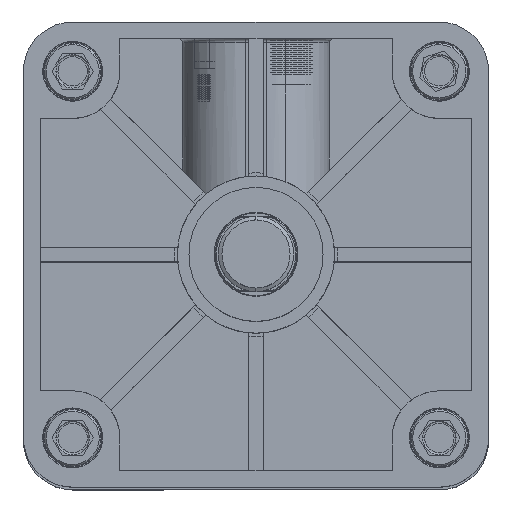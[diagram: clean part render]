
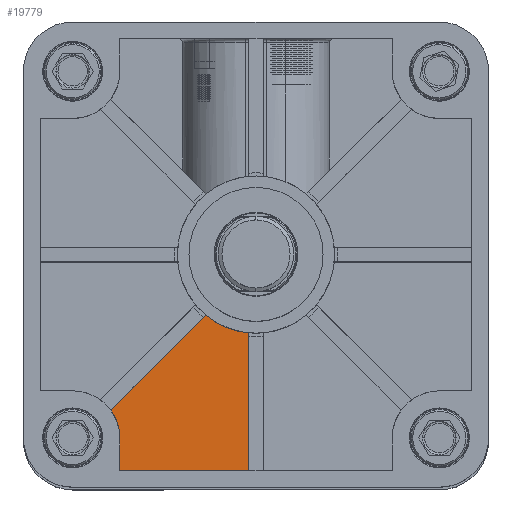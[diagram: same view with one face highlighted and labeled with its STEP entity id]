
A CAD part, top view. The second image highlights one B-rep face of the part: STEP entity #19779.
In plain terms, the highlighted planar face has unit normal (0, 0, 1).
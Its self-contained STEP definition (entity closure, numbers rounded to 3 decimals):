
#3582 = EDGE_CURVE ( 'NONE', #3583, #3593, #11427, .T. ) ;
#3583 = VERTEX_POINT ( 'NONE', #11419 ) ;
#3593 = VERTEX_POINT ( 'NONE', #11475 ) ;
#4174 = ORIENTED_EDGE ( 'NONE', *, *, #4191, .T. ) ;
#4191 = EDGE_CURVE ( 'NONE', #19761, #19819, #12583, .T. ) ;
#11419 = CARTESIAN_POINT ( 'NONE',  ( -3.5, -37.336, 12.5 ) ) ;
#11421 = DIRECTION ( 'NONE',  ( 1., 0., 0. ) ) ;
#11423 = DIRECTION ( 'NONE',  ( 0., 0., -1. ) ) ;
#11424 = CARTESIAN_POINT ( 'NONE',  ( 0., 0., 12.5 ) ) ;
#11426 = AXIS2_PLACEMENT_3D ( 'NONE', #11424, #11423, #11421 ) ;
#11427 = CIRCLE ( 'NONE', #11426, 37.5 ) ;
#11475 = CARTESIAN_POINT ( 'NONE',  ( -23.926, -28.876, 12.5 ) ) ;
#12580 = DIRECTION ( 'NONE',  ( 1., 0., 0. ) ) ;
#12581 = VECTOR ( 'NONE', #12580, 1000. ) ;
#12582 = CARTESIAN_POINT ( 'NONE',  ( -65., -103., 12.5 ) ) ;
#12583 = LINE ( 'NONE', #12582, #12581 ) ;
#19745 = EDGE_LOOP ( 'NONE', ( #4174, #19822, #19830, #19840, #19814, #19824 ) ) ;
#19761 = VERTEX_POINT ( 'NONE', #27299 ) ;
#19771 = VERTEX_POINT ( 'NONE', #27331 ) ;
#19775 = EDGE_CURVE ( 'NONE', #19771, #3593, #27330, .T. ) ;
#19779 = ADVANCED_FACE ( 'NONE', ( #27323 ), #27317, .T. ) ;
#19814 = ORIENTED_EDGE ( 'NONE', *, *, #19816, .T. ) ;
#19816 = EDGE_CURVE ( 'NONE', #19771, #19821, #27398, .T. ) ;
#19819 = VERTEX_POINT ( 'NONE', #27393 ) ;
#19821 = VERTEX_POINT ( 'NONE', #27392 ) ;
#19822 = ORIENTED_EDGE ( 'NONE', *, *, #19823, .F. ) ;
#19823 = EDGE_CURVE ( 'NONE', #3583, #19819, #27391, .T. ) ;
#19824 = ORIENTED_EDGE ( 'NONE', *, *, #19828, .T. ) ;
#19828 = EDGE_CURVE ( 'NONE', #19821, #19761, #27387, .T. ) ;
#19830 = ORIENTED_EDGE ( 'NONE', *, *, #3582, .T. ) ;
#19840 = ORIENTED_EDGE ( 'NONE', *, *, #19775, .F. ) ;
#27299 = CARTESIAN_POINT ( 'NONE',  ( -65., -103., 12.5 ) ) ;
#27313 = DIRECTION ( 'NONE',  ( 1., 0., 0. ) ) ;
#27314 = DIRECTION ( 'NONE',  ( 0., 0., 1. ) ) ;
#27315 = CARTESIAN_POINT ( 'NONE',  ( -87.5, 87.5, 12.5 ) ) ;
#27316 = AXIS2_PLACEMENT_3D ( 'NONE', #27315, #27314, #27313 ) ;
#27317 = PLANE ( 'NONE',  #27316 ) ;
#27323 = FACE_OUTER_BOUND ( 'NONE', #19745, .T. ) ;
#27327 = DIRECTION ( 'NONE',  ( 0.707, 0.707, 0. ) ) ;
#27328 = VECTOR ( 'NONE', #27327, 1000. ) ;
#27329 = CARTESIAN_POINT ( 'NONE',  ( -70.357, -75.307, 12.5 ) ) ;
#27330 = LINE ( 'NONE', #27329, #27328 ) ;
#27331 = CARTESIAN_POINT ( 'NONE',  ( -69.309, -74.259, 12.5 ) ) ;
#27384 = DIRECTION ( 'NONE',  ( 0., -1., 0. ) ) ;
#27385 = VECTOR ( 'NONE', #27384, 1000. ) ;
#27386 = CARTESIAN_POINT ( 'NONE',  ( -65., -87.5, 12.5 ) ) ;
#27387 = LINE ( 'NONE', #27386, #27385 ) ;
#27388 = DIRECTION ( 'NONE',  ( 0., -1., 0. ) ) ;
#27389 = VECTOR ( 'NONE', #27388, 1000. ) ;
#27390 = CARTESIAN_POINT ( 'NONE',  ( -3.5, -103., 12.5 ) ) ;
#27391 = LINE ( 'NONE', #27390, #27389 ) ;
#27392 = CARTESIAN_POINT ( 'NONE',  ( -65., -87.5, 12.5 ) ) ;
#27393 = CARTESIAN_POINT ( 'NONE',  ( -3.5, -103., 12.5 ) ) ;
#27394 = DIRECTION ( 'NONE',  ( -1., 0., 0. ) ) ;
#27395 = DIRECTION ( 'NONE',  ( 0., 0., -1. ) ) ;
#27396 = CARTESIAN_POINT ( 'NONE',  ( -87.5, -87.5, 12.5 ) ) ;
#27397 = AXIS2_PLACEMENT_3D ( 'NONE', #27396, #27395, #27394 ) ;
#27398 = CIRCLE ( 'NONE', #27397, 22.5 ) ;
